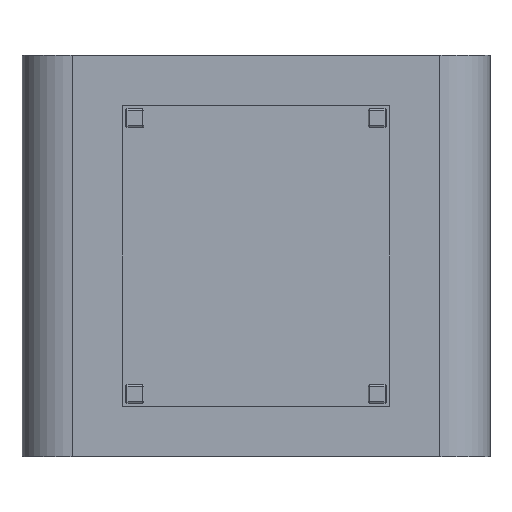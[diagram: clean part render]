
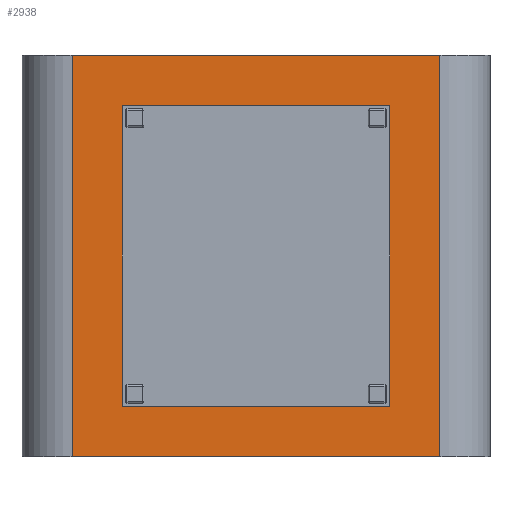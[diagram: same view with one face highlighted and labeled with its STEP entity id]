
A CAD part, front view. The second image highlights one B-rep face of the part: STEP entity #2938.
In plain terms, the highlighted planar face has unit normal (0, -1, 0).
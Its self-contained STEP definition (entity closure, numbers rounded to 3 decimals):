
#43 = VECTOR ( 'NONE', #266, 1000. ) ;
#167 = VERTEX_POINT ( 'NONE', #1309 ) ;
#186 = DIRECTION ( 'NONE',  ( 0., 0., -1. ) ) ;
#266 = DIRECTION ( 'NONE',  ( 0., 0., -1. ) ) ;
#356 = ORIENTED_EDGE ( 'NONE', *, *, #1946, .F. ) ;
#366 = CARTESIAN_POINT ( 'NONE',  ( -550., -150., -600. ) ) ;
#381 = CARTESIAN_POINT ( 'NONE',  ( -550., -150., -600. ) ) ;
#425 = CARTESIAN_POINT ( 'NONE',  ( -550., -150., 600. ) ) ;
#431 = ORIENTED_EDGE ( 'NONE', *, *, #1400, .T. ) ;
#453 = ORIENTED_EDGE ( 'NONE', *, *, #1479, .F. ) ;
#465 = FACE_OUTER_BOUND ( 'NONE', #656, .T. ) ;
#553 = CARTESIAN_POINT ( 'NONE',  ( -550., -150., 600. ) ) ;
#610 = VERTEX_POINT ( 'NONE', #3261 ) ;
#656 = EDGE_LOOP ( 'NONE', ( #1500, #453, #356, #431 ) ) ;
#1259 = CARTESIAN_POINT ( 'NONE',  ( 550., -150., 600. ) ) ;
#1309 = CARTESIAN_POINT ( 'NONE',  ( 550., -150., 600. ) ) ;
#1361 = DIRECTION ( 'NONE',  ( -1., 0., 0. ) ) ;
#1377 = PLANE ( 'NONE',  #3306 ) ;
#1397 = LINE ( 'NONE', #381, #3569 ) ;
#1400 = EDGE_CURVE ( 'NONE', #610, #3133, #3265, .T. ) ;
#1479 = EDGE_CURVE ( 'NONE', #167, #3054, #1557, .T. ) ;
#1491 = DIRECTION ( 'NONE',  ( 1., 0., 0. ) ) ;
#1500 = ORIENTED_EDGE ( 'NONE', *, *, #2531, .T. ) ;
#1557 = LINE ( 'NONE', #1259, #43 ) ;
#1946 = EDGE_CURVE ( 'NONE', #610, #167, #2789, .T. ) ;
#2104 = VECTOR ( 'NONE', #186, 1000. ) ;
#2254 = DIRECTION ( 'NONE',  ( 0., 1., 0. ) ) ;
#2531 = EDGE_CURVE ( 'NONE', #3133, #3054, #1397, .T. ) ;
#2649 = DIRECTION ( 'NONE',  ( 1., 0., 0. ) ) ;
#2789 = LINE ( 'NONE', #553, #3429 ) ;
#2938 = ADVANCED_FACE ( 'NONE', ( #465 ), #1377, .F. ) ;
#3054 = VERTEX_POINT ( 'NONE', #3983 ) ;
#3133 = VERTEX_POINT ( 'NONE', #366 ) ;
#3261 = CARTESIAN_POINT ( 'NONE',  ( -550., -150., 600. ) ) ;
#3265 = LINE ( 'NONE', #3886, #2104 ) ;
#3306 = AXIS2_PLACEMENT_3D ( 'NONE', #425, #2254, #1361 ) ;
#3429 = VECTOR ( 'NONE', #1491, 1000. ) ;
#3569 = VECTOR ( 'NONE', #2649, 1000. ) ;
#3886 = CARTESIAN_POINT ( 'NONE',  ( -550., -150., 600. ) ) ;
#3983 = CARTESIAN_POINT ( 'NONE',  ( 550., -150., -600. ) ) ;
